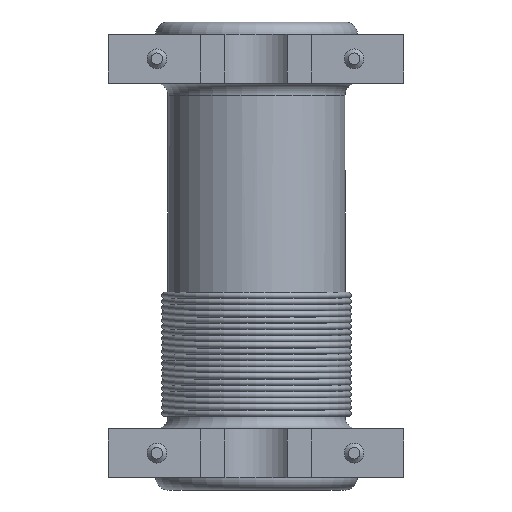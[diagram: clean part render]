
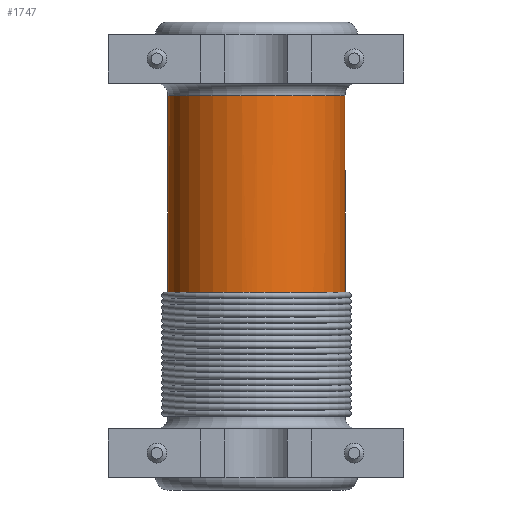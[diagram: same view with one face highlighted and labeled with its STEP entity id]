
A CAD part, front view. The second image highlights one B-rep face of the part: STEP entity #1747.
In plain terms, the highlighted cylindrical face has radius 2.85 mm (diameter 5.7 mm), a full revolution.
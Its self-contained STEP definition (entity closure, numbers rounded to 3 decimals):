
#249=FACE_OUTER_BOUND($,#644,.T.);
#358=CYLINDRICAL_SURFACE($,#1923,2.85);
#411=CIRCLE($,#1920,2.85);
#413=CIRCLE($,#1924,2.85);
#487=FACE_BOUND($,#645,.T.);
#644=EDGE_LOOP($,(#1374));
#645=EDGE_LOOP($,(#1375));
#1039=VERTEX_POINT($,#2738);
#1041=VERTEX_POINT($,#2744);
#1175=EDGE_CURVE($,#1039,#1039,#411,.T.);
#1177=EDGE_CURVE($,#1041,#1041,#413,.T.);
#1374=ORIENTED_EDGE($,*,*,#1177,.F.);
#1375=ORIENTED_EDGE($,*,*,#1175,.F.);
#1747=ADVANCED_FACE($,(#249,#487),#358,.T.);
#1920=AXIS2_PLACEMENT_3D($,#2739,#2233,#2234);
#1923=AXIS2_PLACEMENT_3D($,#2743,#2239,#2240);
#1924=AXIS2_PLACEMENT_3D($,#2745,#2241,#2242);
#2233=DIRECTION('center_axis',(0.,0.,-1.));
#2234=DIRECTION('ref_axis',(0.,1.,0.));
#2239=DIRECTION('center_axis',(0.,0.,-1.));
#2240=DIRECTION('ref_axis',(0.,1.,0.));
#2241=DIRECTION('center_axis',(0.,0.,1.));
#2242=DIRECTION('ref_axis',(0.163,0.987,0.));
#2738=CARTESIAN_POINT('',(0.,-2.85,5.87));
#2739=CARTESIAN_POINT('Origin',(0.,0.,5.87));
#2743=CARTESIAN_POINT('Origin',(0.,0.,7.135));
#2744=CARTESIAN_POINT('',(-0.464,-2.812,12.3));
#2745=CARTESIAN_POINT('Origin',(0.,0.,12.3));
